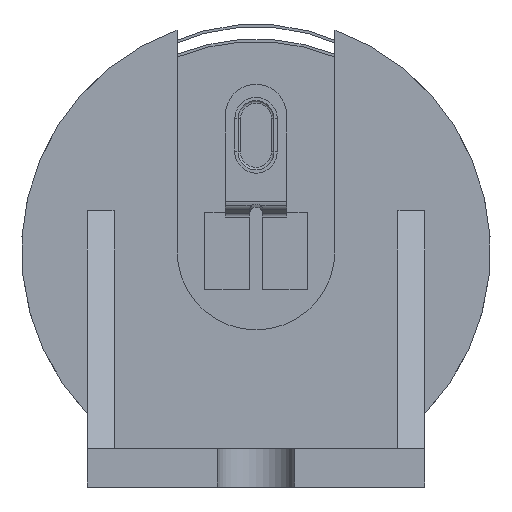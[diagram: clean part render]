
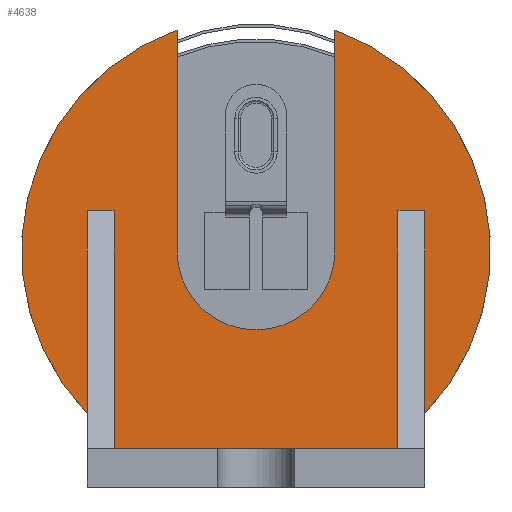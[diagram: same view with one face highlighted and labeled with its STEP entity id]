
A CAD part, left-side view. The second image highlights one B-rep face of the part: STEP entity #4638.
In plain terms, the highlighted planar face has unit normal (-1, 0, 0).
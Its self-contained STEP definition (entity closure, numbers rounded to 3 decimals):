
#1410=DIRECTION('',(0.,0.,1.));
#1411=VECTOR('',#1410,17.183);
#1412=CARTESIAN_POINT('',(4.4,6.15,18.388));
#1413=LINE('',#1412,#1411);
#1428=DIRECTION('',(0.,0.,-1.));
#1429=VECTOR('',#1428,17.183);
#1430=CARTESIAN_POINT('',(4.4,-6.15,35.57));
#1431=LINE('',#1430,#1429);
#1581=CARTESIAN_POINT('',(4.4,0.,18.388));
#1582=DIRECTION('',(-1.,0.,0.));
#1583=DIRECTION('',(0.,1.,0.));
#1584=AXIS2_PLACEMENT_3D('',#1581,#1582,#1583);
#1586=CARTESIAN_POINT('',(4.4,0.,18.388));
#1587=DIRECTION('',(-1.,0.,0.));
#1588=DIRECTION('',(0.,-0.721,-0.693));
#1589=AXIS2_PLACEMENT_3D('',#1586,#1587,#1588);
#1591=CARTESIAN_POINT('',(4.4,0.,18.388));
#1592=DIRECTION('',(-1.,0.,0.));
#1593=DIRECTION('',(0.,0.337,0.942));
#1594=AXIS2_PLACEMENT_3D('',#1591,#1592,#1593);
#1695=DIRECTION('',(0.,0.,-1.));
#1696=VECTOR('',#1695,15.767);
#1697=CARTESIAN_POINT('',(4.4,13.15,21.5));
#1698=LINE('',#1697,#1696);
#1707=DIRECTION('',(0.,-1.,0.));
#1708=VECTOR('',#1707,2.1);
#1709=CARTESIAN_POINT('',(4.4,13.15,21.5));
#1710=LINE('',#1709,#1708);
#1715=DIRECTION('',(0.,0.,1.));
#1716=VECTOR('',#1715,18.5);
#1717=CARTESIAN_POINT('',(4.4,11.05,3.));
#1718=LINE('',#1717,#1716);
#1736=DIRECTION('',(0.,-1.,0.));
#1737=VECTOR('',#1736,22.1);
#1738=CARTESIAN_POINT('',(4.4,11.05,3.));
#1739=LINE('',#1738,#1737);
#1748=DIRECTION('',(0.,0.,-1.));
#1749=VECTOR('',#1748,18.5);
#1750=CARTESIAN_POINT('',(4.4,-11.05,21.5));
#1751=LINE('',#1750,#1749);
#1752=DIRECTION('',(0.,-1.,0.));
#1753=VECTOR('',#1752,2.1);
#1754=CARTESIAN_POINT('',(4.4,-11.05,21.5));
#1755=LINE('',#1754,#1753);
#1760=DIRECTION('',(0.,0.,-1.));
#1761=VECTOR('',#1760,15.767);
#1762=CARTESIAN_POINT('',(4.4,-13.15,21.5));
#1763=LINE('',#1762,#1761);
#2014=CARTESIAN_POINT('',(4.4,6.15,18.388));
#2015=CARTESIAN_POINT('',(4.4,6.15,35.57));
#2016=VERTEX_POINT('',#2014);
#2017=VERTEX_POINT('',#2015);
#2018=CARTESIAN_POINT('',(4.4,13.15,5.733));
#2019=VERTEX_POINT('',#2018);
#2020=CARTESIAN_POINT('',(4.4,13.15,21.5));
#2021=VERTEX_POINT('',#2020);
#2022=CARTESIAN_POINT('',(4.4,11.05,21.5));
#2023=VERTEX_POINT('',#2022);
#2024=CARTESIAN_POINT('',(4.4,11.05,3.));
#2025=VERTEX_POINT('',#2024);
#2026=CARTESIAN_POINT('',(4.4,-11.05,3.));
#2027=VERTEX_POINT('',#2026);
#2028=CARTESIAN_POINT('',(4.4,-11.05,21.5));
#2029=VERTEX_POINT('',#2028);
#2030=CARTESIAN_POINT('',(4.4,-13.15,21.5));
#2031=VERTEX_POINT('',#2030);
#2032=CARTESIAN_POINT('',(4.4,-13.15,5.733));
#2033=VERTEX_POINT('',#2032);
#2034=CARTESIAN_POINT('',(4.4,-6.15,35.57));
#2035=VERTEX_POINT('',#2034);
#2036=CARTESIAN_POINT('',(4.4,-6.15,18.388));
#2037=VERTEX_POINT('',#2036);
#4610=CARTESIAN_POINT('',(4.4,0.,19.285));
#4611=DIRECTION('',(1.,0.,0.));
#4612=DIRECTION('',(0.,1.,0.));
#4613=AXIS2_PLACEMENT_3D('',#4610,#4611,#4612);
#4614=PLANE('',#4613);
#4615=ORIENTED_EDGE('',*,*,#4405,.F.);
#4617=ORIENTED_EDGE('',*,*,#4616,.T.);
#4618=ORIENTED_EDGE('',*,*,#4443,.F.);
#4620=ORIENTED_EDGE('',*,*,#4619,.F.);
#4622=ORIENTED_EDGE('',*,*,#4621,.F.);
#4624=ORIENTED_EDGE('',*,*,#4623,.F.);
#4626=ORIENTED_EDGE('',*,*,#4625,.T.);
#4628=ORIENTED_EDGE('',*,*,#4627,.F.);
#4630=ORIENTED_EDGE('',*,*,#4629,.T.);
#4632=ORIENTED_EDGE('',*,*,#4631,.F.);
#4634=ORIENTED_EDGE('',*,*,#4633,.T.);
#4635=ORIENTED_EDGE('',*,*,#4600,.F.);
#4636=EDGE_LOOP('',(#4615,#4617,#4618,#4620,#4622,#4624,#4626,#4628,#4630,#4632,
#4634,#4635));
#4637=FACE_OUTER_BOUND('',#4636,.F.);
#1585=CIRCLE('',#1584,6.15);
#1590=CIRCLE('',#1589,18.25);
#1595=CIRCLE('',#1594,18.25);
#4405=EDGE_CURVE('',#2016,#2017,#1413,.T.);
#4443=EDGE_CURVE('',#2035,#2037,#1431,.T.);
#4600=EDGE_CURVE('',#2017,#2019,#1595,.T.);
#4616=EDGE_CURVE('',#2016,#2037,#1585,.T.);
#4619=EDGE_CURVE('',#2033,#2035,#1590,.T.);
#4621=EDGE_CURVE('',#2031,#2033,#1763,.T.);
#4623=EDGE_CURVE('',#2029,#2031,#1755,.T.);
#4625=EDGE_CURVE('',#2029,#2027,#1751,.T.);
#4627=EDGE_CURVE('',#2025,#2027,#1739,.T.);
#4629=EDGE_CURVE('',#2025,#2023,#1718,.T.);
#4631=EDGE_CURVE('',#2021,#2023,#1710,.T.);
#4633=EDGE_CURVE('',#2021,#2019,#1698,.T.);
#4638=ADVANCED_FACE('',(#4637),#4614,.F.);
